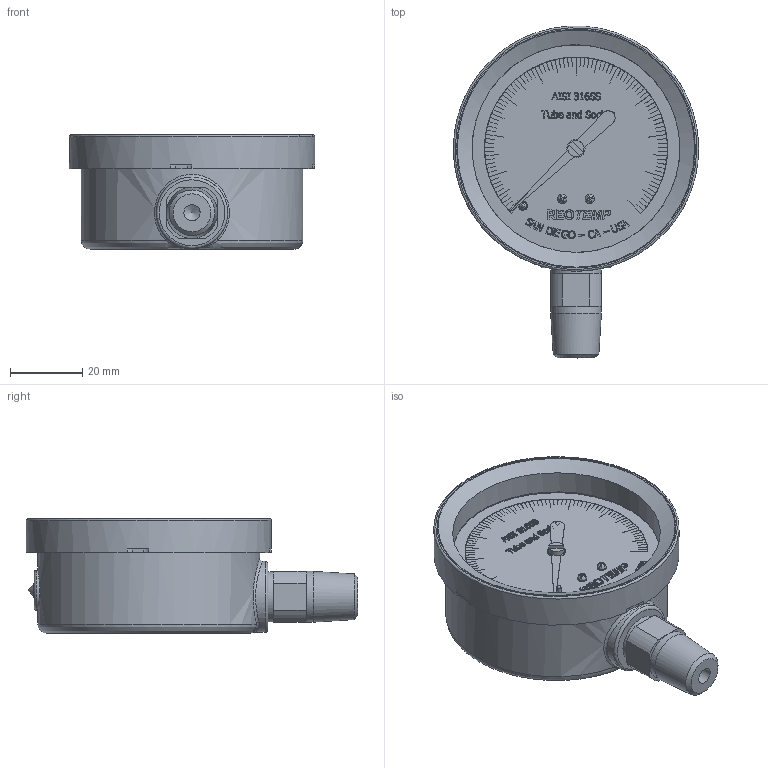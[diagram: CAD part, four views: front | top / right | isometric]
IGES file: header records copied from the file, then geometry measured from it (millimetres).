
Global section: file name: PR25-quarter-NPT-Bottom-Connect-igs; native system: Autodesk Inventor 2014; preprocessor: unknown; author: Charles; date: 20151106.155635; units: inch
Bounding box: 68.07 x 92.14 x 31.75 mm (x, y, z)
Volume: 95993.6 mm3; surface area: 48292.2 mm2
Topology: 5 solids, 8 shells, 1309 faces, 3542 edges, 2355 vertices
Faces by surface type: bspline 1309
